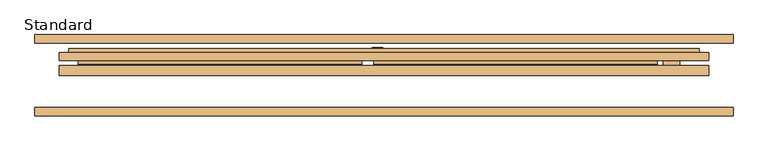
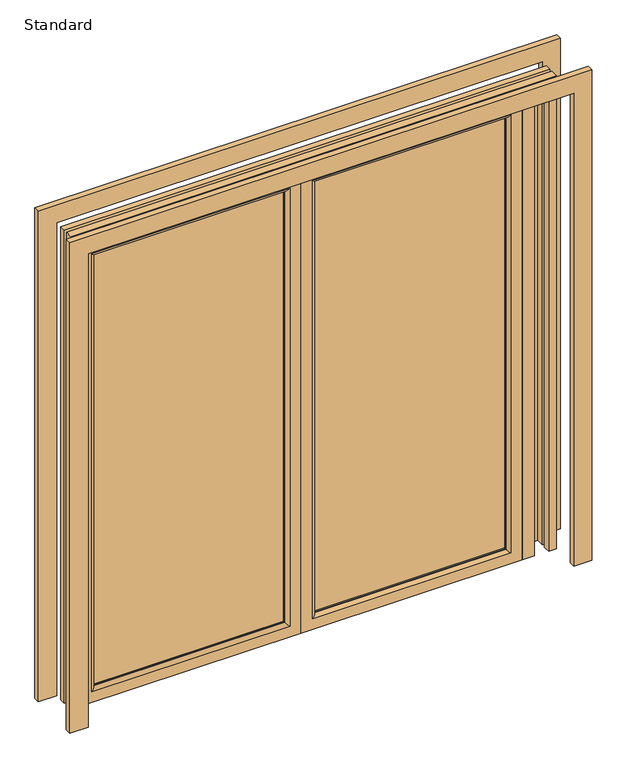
"""IFC4 building model written with IfcOpenShell, lengths in millimetres: door geometry, SMARTS_Visofold1000 : Standard."""

import ifcopenshell
import ifcopenshell.guid

model = None  # the IFC model being written
_history = None  # IfcOwnerHistory: only IFC2X3 demands one
_inside = {}  # id of a spatial element -> (the spatial element, [elements in it])
_under = {}  # id of a project, library or spatial element -> (it, [spatial elements below it])
_declared = {}  # id of a project -> (the project, [libraries it declares])
_typed = {}  # id of a type object -> (the type object, [elements of that type])
_made_of = {}  # id of a material, layer set ... -> (it, [elements and type objects made of it])


def new_model(schema):
    """Start an empty IFC model of exactly this schema.

    Asked for "IFC4X3", IfcOpenShell would pick the latest addendum, in which some entities
    have other attributes; the version numbers below select the first issue.
    IFC2X3 requires an IfcOwnerHistory on every rooted entity: one is made here for all.
    """
    global model, _history
    if schema == "IFC4X3":
        model = ifcopenshell.file(schema_version=(4, 3, 0, 0))
    else:
        model = ifcopenshell.file(schema=schema)
    _inside.clear()
    _under.clear()
    _declared.clear()
    _typed.clear()
    _made_of.clear()
    _history = None
    if model.schema == "IFC2X3":
        org = make("IfcOrganization", Name="unknown")
        user = make(
            "IfcPersonAndOrganization",
            ThePerson=make("IfcPerson", FamilyName="unknown"),
            TheOrganization=org,
        )
        app = make(
            "IfcApplication",
            ApplicationDeveloper=org,
            Version="unknown",
            ApplicationFullName="unknown",
            ApplicationIdentifier="unknown",
        )
        _history = make(
            "IfcOwnerHistory",
            OwningUser=user,
            OwningApplication=app,
            ChangeAction="ADDED",
            CreationDate=0,
        )
    return model


def make(cls, **values):
    """One entity of the class cls with the attributes given. An attribute that is None is left unset."""
    return model.create_entity(
        cls, **{name: value for name, value in values.items() if value is not None}
    )


def rooted(cls, **values):
    """An entity with a GlobalId (a new one), such as an element, a storey or a relation."""
    return make(cls, GlobalId=ifcopenshell.guid.new(), OwnerHistory=_history, **values)


def si_unit(unit_type, name, prefix=None):
    """IfcSIUnit, for example si_unit("LENGTHUNIT", "METRE", prefix="MILLI")."""
    return make("IfcSIUnit", UnitType=unit_type, Prefix=prefix, Name=name)


def assignment(units):
    """IfcUnitAssignment: the units of a project."""
    return None if units is None else make("IfcUnitAssignment", Units=units)


def point(xyz):
    """IfcCartesianPoint."""
    return None if xyz is None else make("IfcCartesianPoint", Coordinates=xyz)


def direction(xyz):
    """IfcDirection."""
    return None if xyz is None else make("IfcDirection", DirectionRatios=xyz)


def frame(location, z_axis=None, x_axis=None):
    """IfcAxis2Placement3D, a coordinate frame: its origin and axes. An axis left out is left unset."""
    return make(
        "IfcAxis2Placement3D",
        Location=point(location),
        Axis=direction(z_axis),
        RefDirection=direction(x_axis),
    )


def frame_2d(location, x_axis=None):
    """IfcAxis2Placement2D, a coordinate frame in the plane: its origin and x axis."""
    return make(
        "IfcAxis2Placement2D", Location=point(location), RefDirection=direction(x_axis)
    )


def origin():
    """The frame at (0, 0, 0) with its axes left unset."""
    return frame((0.0, 0.0, 0.0))


def origin_with_axes():
    """The frame at (0, 0, 0) with the z axis (0, 0, 1) and the x axis (1, 0, 0) written out."""
    return frame((0.0, 0.0, 0.0), z_axis=(0.0, 0.0, 1.0), x_axis=(1.0, 0.0, 0.0))


def place(relative_to, where):
    """IfcLocalPlacement: puts the frame where relative to a parent placement (None: the world)."""
    return make(
        "IfcLocalPlacement", PlacementRelTo=relative_to, RelativePlacement=where
    )


def context(
    kind, dimensions, precision=None, world=None, true_north=None, identifier=None
):
    """IfcGeometricRepresentationContext, for example the 3D "Model" context."""
    return make(
        "IfcGeometricRepresentationContext",
        ContextIdentifier=identifier,
        ContextType=kind,
        CoordinateSpaceDimension=dimensions,
        Precision=precision,
        WorldCoordinateSystem=world,
        TrueNorth=true_north,
    )


def project(units=None, contexts=None):
    """IfcProject with its units and contexts."""
    return rooted(
        "IfcProject",
        Name="project",
        RepresentationContexts=contexts,
        UnitsInContext=assignment(units),
    )


def spatial(cls, under=None, at=None, **own):
    """A site, building, storey or space (cls), placed at a placement, below another one or the project."""
    s = rooted(cls, ObjectPlacement=at, **own)
    if under is not None:
        _under.setdefault(under.id(), (under, []))[1].append(s)
    return s


def polyline(points):
    """IfcPolyline through the points."""
    return make("IfcPolyline", Points=[point(p) for p in points])


def circle_curve(where, radius):
    """IfcCircle in the frame where."""
    return make("IfcCircle", Position=where, Radius=radius)


def ellipse_curve(where, semi_axis1, semi_axis2):
    """IfcEllipse in the frame where."""
    return make(
        "IfcEllipse", Position=where, SemiAxis1=semi_axis1, SemiAxis2=semi_axis2
    )


def trimmed(basis, trim1, trim2, sense, master):
    """IfcTrimmedCurve: the piece of a basis curve between two trims."""
    return make(
        "IfcTrimmedCurve",
        BasisCurve=basis,
        Trim1=trim1,
        Trim2=trim2,
        SenseAgreement=sense,
        MasterRepresentation=master,
    )


def segment(curve, same_sense, transition):
    """IfcCompositeCurveSegment."""
    return make(
        "IfcCompositeCurveSegment",
        Transition=transition,
        SameSense=same_sense,
        ParentCurve=curve,
    )


def composite_curve(segments, self_intersect=None):
    """IfcCompositeCurve: segments joined end to end."""
    return make("IfcCompositeCurve", Segments=segments, SelfIntersect=self_intersect)


def outline(outer, holes=None, kind="AREA"):
    """IfcArbitraryClosedProfileDef: a profile drawn as a closed curve; with holes, ...WithVoids."""
    if holes is None:
        return make("IfcArbitraryClosedProfileDef", ProfileType=kind, OuterCurve=outer)
    return make(
        "IfcArbitraryProfileDefWithVoids",
        ProfileType=kind,
        OuterCurve=outer,
        InnerCurves=holes,
    )


def extrude(swept, where, along, depth):
    """IfcExtrudedAreaSolid: the profile swept, set in the frame where, extruded along a direction by depth."""
    return make(
        "IfcExtrudedAreaSolid",
        SweptArea=swept,
        Position=where,
        ExtrudedDirection=direction(along),
        Depth=depth,
    )


def faces_of(points, faces, orient=None, outer=None):
    """IfcFace entities. A face is a list of loops; a loop is a list of indices into points, from 0.

    orient and outer hold one flag for each loop. By default every Orientation is true, the
    first loop of a face is its IfcFaceOuterBound and the others are IfcFaceBound.
    """
    made = []
    for i, loops in enumerate(faces):
        bounds = []
        for j, loop in enumerate(loops):
            is_outer = j == 0 if outer is None else outer[i][j]
            bounds.append(
                make(
                    "IfcFaceOuterBound" if is_outer else "IfcFaceBound",
                    Bound=make("IfcPolyLoop", Polygon=[points[k] for k in loop]),
                    Orientation=True if orient is None else orient[i][j],
                )
            )
        made.append(make("IfcFace", Bounds=bounds))
    return made


def faceted_brep(points, faces, orient=None, outer=None, voids=None):
    """IfcFacetedBrep: a solid bounded by flat faces; with voids (closed shells), ...WithVoids."""
    shared = [point(p) for p in points]
    hull = make("IfcClosedShell", CfsFaces=faces_of(shared, faces, orient, outer))
    if voids is None:
        return make("IfcFacetedBrep", Outer=hull)
    return make(
        "IfcFacetedBrepWithVoids",
        Outer=hull,
        Voids=[
            make(cls, CfsFaces=faces_of(shared, fs, o, b)) for cls, fs, o, b in voids
        ],
    )


def shape(context_of_items, identifier, shape_type, items):
    """IfcShapeRepresentation: the items that make up one representation, for example the "Body"."""
    return make(
        "IfcShapeRepresentation",
        ContextOfItems=context_of_items,
        RepresentationIdentifier=identifier,
        RepresentationType=shape_type,
        Items=items,
    )


def source(mapping_origin, context_of_items, identifier, shape_type, items):
    """IfcRepresentationMap: a shape defined once, which mapped items show again and again."""
    return make(
        "IfcRepresentationMap",
        MappingOrigin=mapping_origin,
        MappedRepresentation=shape(context_of_items, identifier, shape_type, items),
    )


def transform(
    local_origin,
    x_axis=None,
    y_axis=None,
    z_axis=None,
    scale=None,
    scale2=None,
    scale3=None,
    uniform=True,
):
    """IfcCartesianTransformationOperator3D, or its non-uniform kind. x_axis, y_axis, z_axis: its Axis1, 2, 3."""
    if uniform:
        return make(
            "IfcCartesianTransformationOperator3D",
            Axis1=direction(x_axis),
            Axis2=direction(y_axis),
            LocalOrigin=point(local_origin),
            Scale=scale,
            Axis3=direction(z_axis),
        )
    return make(
        "IfcCartesianTransformationOperator3DnonUniform",
        Axis1=direction(x_axis),
        Axis2=direction(y_axis),
        LocalOrigin=point(local_origin),
        Scale=scale,
        Axis3=direction(z_axis),
        Scale2=scale2,
        Scale3=scale3,
    )


def mapped(mapping_source, mapping_target):
    """IfcMappedItem: shows the shape of a source again, moved by a transform."""
    return make(
        "IfcMappedItem", MappingSource=mapping_source, MappingTarget=mapping_target
    )


def made_of(thing, what):
    """Note that an element or type object is made of a material, layer set ...; save() writes the relation."""
    if what is not None:
        _made_of.setdefault(what.id(), (what, []))[1].append(thing)
    return thing


def element(
    cls,
    number,
    at=None,
    inside=None,
    cuts=None,
    type_object=None,
    material=None,
    context=None,
    identifier="Body",
    shape_type=None,
    held_by="IfcProductDefinitionShape",
    body=None,
    shapes=None,
    **own,
):
    """One element of the class cls, such as IfcWall. Its Tag is "e" and its number.

    at: its placement. inside: the storey or other place that contains it. cuts: it is an
    opening in that element (IfcRelVoidsElement). A single representation is given by context,
    identifier, shape_type and body (its items); several are given by shapes. held_by: the class
    of the entity that holds the representations. save() writes the other relations.
    """
    e = rooted(cls, Tag="e%d" % number, ObjectPlacement=at, **own)
    if body is not None:
        shapes = [shape(context, identifier, shape_type, body)]
    if shapes is not None:
        e.Representation = make(held_by, Representations=shapes)
    if inside is not None:
        _inside.setdefault(inside.id(), (inside, []))[1].append(e)
    if cuts is not None:
        rooted(
            "IfcRelVoidsElement", RelatingBuildingElement=cuts, RelatedOpeningElement=e
        )
    if type_object is not None:
        _typed.setdefault(type_object.id(), (type_object, []))[1].append(e)
    return made_of(e, material)


def aggregate(whole, parts):
    """IfcRelAggregates: a whole, such as a stair, and the parts it consists of."""
    return rooted("IfcRelAggregates", RelatingObject=whole, RelatedObjects=parts)


def save(model, path):
    """Write the relations noted so far, then the file.

    IfcRelAggregates (storeys below a building ...), IfcRelContainedInSpatialStructure (elements
    in a storey), IfcRelDefinesByType, IfcRelAssociatesMaterial and IfcRelDeclares: one each for
    every whole, place, type object, material and project.
    """
    for whole, parts in _under.values():
        aggregate(whole, parts)
    for where, things in _inside.values():
        rooted(
            "IfcRelContainedInSpatialStructure",
            RelatedElements=things,
            RelatingStructure=where,
        )
    for kind, things in _typed.values():
        rooted("IfcRelDefinesByType", RelatedObjects=things, RelatingType=kind)
    for what, things in _made_of.values():
        rooted("IfcRelAssociatesMaterial", RelatedObjects=things, RelatingMaterial=what)
    for by, libraries in _declared.values():
        rooted("IfcRelDeclares", RelatingContext=by, RelatedDefinitions=libraries)
    model.write(path)


def plane_surface(at):
    """IfcPlane: the flat surface through the origin of the frame at, square to its z axis."""
    return make("IfcPlane", Position=at)


def cylinder_surface(at, radius):
    """IfcCylindricalSurface: all points at the distance radius from the z axis of the frame at."""
    return make("IfcCylindricalSurface", Position=at, Radius=radius)


def advanced_brep(points, edges, surfaces, faces):
    """IfcAdvancedBrep: a solid bounded by faces that lie on surfaces and meet in shared edges.

    An edge is (start, end): straight between two places in points (the first is 0);
    or (start, end, curve); or (start, end, curve, False) where it runs against its curve.
    A face is (place in surfaces, loops), or (place, loops, False) where it looks against
    its surface's normal. A loop lists edges by number (the first is 1), with a minus sign
    where the edge is run from its end to its start. The first loop is the outer one.
    """
    corners = [point(p) for p in points]
    vertices = [make("IfcVertexPoint", VertexGeometry=c) for c in corners]
    made = []
    for start, end, *more in edges:
        made.append(
            make(
                "IfcEdgeCurve",
                EdgeStart=vertices[start],
                EdgeEnd=vertices[end],
                EdgeGeometry=more[0] if more else make("IfcPolyline", Points=[corners[start], corners[end]]),
                SameSense=more[1] if len(more) > 1 else True,
            )
        )
    hull = []
    for where, loops, *sense in faces:
        bounds = []
        for j, loop in enumerate(loops):
            ring = [make("IfcOrientedEdge", EdgeElement=made[abs(k) - 1], Orientation=k > 0) for k in loop]
            bounds.append(
                make(
                    "IfcFaceOuterBound" if j == 0 else "IfcFaceBound",
                    Bound=make("IfcEdgeLoop", EdgeList=ring),
                    Orientation=True,
                )
            )
        hull.append(make("IfcAdvancedFace", Bounds=bounds, FaceSurface=surfaces[where], SameSense=sense[0] if sense else True))
    return make("IfcAdvancedBrep", Outer=make("IfcClosedShell", CfsFaces=hull))


def standard_30918d1a(model_context):
    return source(origin(), model_context, "Body", "SolidModel", [
        extrude(outline(composite_curve([segment(trimmed(circle_curve(frame_2d((1228.0996413, -20.0)), 16.0), [point((1228.0996413, -4.0))], [point((1228.0996413, -36.0))], False, "CARTESIAN"), True, "CONTINUOUS"), segment(polyline([(1228.0996413, -36.0), (1040.0996413, -36.0)]), True, "CONTINUOUS"), segment(trimmed(circle_curve(frame_2d((1040.0996413, -20.0)), 16.0), [point((1040.0996413, -36.0))], [point((1040.0996413, -4.0))], False, "CARTESIAN"), True, "CONTINUOUS"), segment(polyline([(1040.0996413, -4.0), (1228.0996413, -4.0)]), True, "CONTINUOUS")], self_intersect=False)), frame((0.0, 75.0, 0.0), z_axis=(0.0, 1.0, 0.0), x_axis=(0.0, 0.0, 1.0)), (0.0, 0.0, 1.0), 10.0),
        extrude(outline(polyline([(45.0, -5.0), (45.0, 815.0), (1955.0, 815.0), (1955.0, -5.0), (45.0, -5.0)]), holes=[polyline([(1939.5, 10.5), (1939.5, 799.5), (60.5, 799.5), (60.5, 10.5), (1939.5, 10.5)])]), frame((0.0, 17.4, 0.0), z_axis=(0.0, 1.0, 0.0), x_axis=(0.0, 0.0, 1.0)), (0.0, 0.0, 1.0), 35.0),
        faceted_brep([(-50.0, 74.4, 0.0), (-50.0, 52.4, 0.0), (-50.0, 52.4, 2000.0), (-50.0, 74.4, 2000.0), (10.5, 52.4, 60.5), (10.5, 74.4, 60.5), (10.5, 74.4, 1939.5), (10.5, 52.4, 1939.5), (860.0, 52.4, 2000.0), (860.0, 74.4, 2000.0), (799.5, 74.4, 1939.5), (799.5, 52.4, 1939.5), (860.0, 52.4, 0.0), (860.0, 74.4, 0.0), (799.5, 74.4, 60.5), (799.5, 52.4, 60.5), (-32.1308519, 34.8, 17.8691481), (842.1308519, 34.8, 17.8691481), (842.1308519, 34.8, 1982.1308519), (-32.1308519, 34.8, 1982.1308519), (-5.0, 34.8, 1955.0), (815.0, 34.8, 1955.0), (815.0, 34.8, 45.0), (-5.0, 34.8, 45.0), (-32.1308519, 52.4, 17.8691481), (-32.1308519, 52.4, 1982.1308519), (-5.0, 52.4, 45.0), (-5.0, 52.4, 1955.0), (842.1308519, 52.4, 1982.1308519), (815.0, 52.4, 1955.0), (842.1308519, 52.4, 17.8691481), (815.0, 52.4, 45.0)], [[[0, 1, 2, 3]], [[4, 5, 6, 7]], [[3, 2, 8, 9]], [[7, 6, 10, 11]], [[9, 8, 12, 13]], [[11, 10, 14, 15]], [[13, 12, 1, 0]], [[3, 9, 13, 0], [5, 14, 10, 6]], [[15, 14, 5, 4]], [[16, 17, 18, 19], [20, 21, 22, 23]], [[24, 16, 19, 25]], [[23, 26, 27, 20]], [[25, 19, 18, 28]], [[20, 27, 29, 21]], [[28, 18, 17, 30]], [[21, 29, 31, 22]], [[30, 17, 16, 24]], [[1, 12, 8, 2], [25, 28, 30, 24]], [[26, 31, 29, 27], [7, 11, 15, 4]], [[22, 31, 26, 23]]]),
        advanced_brep(
        [(10.5, 13.3, 60.5), (10.5, 17.4, 60.5), (10.5, 17.4, 1939.5), (10.5, 13.3, 1939.5), (-50.0, 17.4, 0.0), (-50.0, 0.0, 0.0), (-50.0, 0.0, 2000.0), (-50.0, 17.4, 2000.0), (799.5, 17.4, 1939.5), (799.5, 13.3, 1939.5), (860.0, 0.0, 2000.0), (860.0, 17.4, 2000.0), (799.5, 17.4, 60.5), (799.5, 13.3, 60.5), (860.0, 0.0, 0.0), (860.0, 17.4, 0.0), (-2.8, 0.0, 1952.8), (812.8, 0.0, 1952.8), (812.8, 0.0, 47.2), (-2.8, 0.0, 47.2), (-32.1308519, 34.8, 17.8691481), (-32.1308519, 17.4, 17.8691481), (-32.1308519, 17.4, 1982.1308519), (-32.1308519, 34.8, 1982.1308519), (842.1308519, 17.4, 1982.1308519), (842.1308519, 34.8, 1982.1308519), (842.1308519, 17.4, 17.8691481), (842.1308519, 34.8, 17.8691481), (-5.0, 17.4, 45.0), (-5.0, 34.8, 45.0), (-5.0, 34.8, 1955.0), (-5.0, 17.4, 1955.0), (815.0, 34.8, 1955.0), (815.0, 17.4, 1955.0), (815.0, 34.8, 45.0), (815.0, 17.4, 45.0)],
        [
            (0, 1),
            (1, 2),
            (2, 3),
            (3, 0),
            (4, 5),
            (5, 6),
            (6, 7),
            (7, 4),
            (2, 8),
            (8, 9),
            (9, 3),
            (6, 10),
            (10, 11),
            (11, 7),
            (8, 12),
            (12, 13),
            (13, 9),
            (10, 14),
            (14, 15),
            (15, 11),
            (12, 1),
            (0, 13),
            (5, 14),
            (16, 17),
            (17, 18),
            (18, 19),
            (19, 16),
            (4, 15),
            (19, 0, ellipse_curve(frame((-2.8, 13.3, 47.2), z_axis=(-0.70710678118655, 0.0, 0.7071067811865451), x_axis=(-0.707106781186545, 0.0, -0.7071067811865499)), 18.8090404, 13.3)),
            (3, 16, ellipse_curve(frame((-2.8, 13.3, 1952.8), z_axis=(-0.7071067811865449, 0.0, -0.70710678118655), x_axis=(0.7071067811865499, 0.0, -0.707106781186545)), 18.8090404, 13.3)),
            (9, 17, ellipse_curve(frame((812.8, 13.3, 1952.8), z_axis=(-0.7071067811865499, 0.0, 0.7071067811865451), x_axis=(-0.7071067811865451, 0.0, -0.70710678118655)), 18.8090404, 13.3)),
            (13, 18, ellipse_curve(frame((812.8, 13.3, 47.2), z_axis=(0.7071067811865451, 0.0, 0.7071067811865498), x_axis=(-0.7071067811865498, 0.0, 0.7071067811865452)), 18.8090404, 13.3)),
            (20, 21),
            (21, 22),
            (22, 23),
            (23, 20),
            (22, 24),
            (24, 25),
            (25, 23),
            (24, 26),
            (26, 27),
            (27, 25),
            (21, 26),
            (20, 27),
            (28, 29),
            (29, 30),
            (30, 31),
            (31, 28),
            (30, 32),
            (32, 33),
            (33, 31),
            (32, 34),
            (34, 35),
            (35, 33),
            (34, 29),
            (28, 35),
        ],
        [
            plane_surface(frame((10.5, 17.4, 60.5), z_axis=(1.0, 0.0, 0.0), x_axis=(0.0, 0.0, 1.0))),
            plane_surface(frame((-50.0, 0.0, 0.0), z_axis=(-1.0, 0.0, 0.0), x_axis=(0.0, 0.0, 1.0))),
            plane_surface(frame((10.5, 17.4, 1939.5), z_axis=(0.0, 0.0, -1.0), x_axis=(1.0, 0.0, 0.0))),
            plane_surface(frame((-50.0, 0.0, 2000.0), z_axis=(0.0, 0.0, 1.0), x_axis=(1.0, 0.0, 0.0))),
            plane_surface(frame((799.5, 17.4, 1939.5), z_axis=(-1.0, 0.0, 0.0), x_axis=(0.0, 0.0, -1.0))),
            plane_surface(frame((860.0, 0.0, 2000.0), z_axis=(1.0, 0.0, 0.0), x_axis=(0.0, 0.0, -1.0))),
            plane_surface(frame((799.5, 17.4, 60.5), z_axis=(0.0, 0.0, 1.0), x_axis=(-1.0, 0.0, 0.0))),
            plane_surface(frame((812.8, 0.0, 47.2), z_axis=(0.0, -1.0, 0.0), x_axis=(-1.0, 0.0, 0.0))),
            plane_surface(frame((860.0, 0.0, 0.0), z_axis=(0.0, 0.0, -1.0), x_axis=(-1.0, 0.0, 0.0))),
            cylinder_surface(frame((-2.8, 13.3, 0.0), z_axis=(0.0, 0.0, -1.0), x_axis=(0.0, 1.0, 0.0)), 13.3),
            cylinder_surface(frame((-50.0, 13.3, 1952.8), z_axis=(-1.0, 0.0, 0.0), x_axis=(0.0, 1.0, 0.0)), 13.3),
            cylinder_surface(frame((812.8, 13.3, 2000.0), z_axis=(0.0, 0.0, 1.0), x_axis=(0.0, 1.0, 0.0)), 13.3),
            cylinder_surface(frame((860.0, 13.3, 47.2), z_axis=(1.0, 0.0, 0.0), x_axis=(0.0, 1.0, 0.0)), 13.3),
            plane_surface(frame((-32.1308519, 17.4, 17.8691481), z_axis=(-1.0, 0.0, 0.0), x_axis=(0.0, 0.0, 1.0))),
            plane_surface(frame((-32.1308519, 17.4, 1982.1308519), z_axis=(0.0, 0.0, 1.0), x_axis=(1.0, 0.0, 0.0))),
            plane_surface(frame((842.1308519, 17.4, 1982.1308519), z_axis=(1.0, 0.0, 0.0), x_axis=(0.0, 0.0, -1.0))),
            plane_surface(frame((860.0, 17.4, 0.0), z_axis=(0.0, 1.0, 0.0), x_axis=(-1.0, 0.0, 0.0))),
            plane_surface(frame((842.1308519, 17.4, 17.8691481), z_axis=(0.0, 0.0, -1.0), x_axis=(-1.0, 0.0, 0.0))),
            plane_surface(frame((-5.0, 34.8, 45.0), z_axis=(1.0, 0.0, 0.0), x_axis=(0.0, 0.0, 1.0))),
            plane_surface(frame((-5.0, 34.8, 1955.0), z_axis=(0.0, 0.0, -1.0), x_axis=(1.0, 0.0, 0.0))),
            plane_surface(frame((815.0, 34.8, 1955.0), z_axis=(-1.0, 0.0, 0.0), x_axis=(0.0, 0.0, -1.0))),
            plane_surface(frame((815.0, 34.8, 45.0), z_axis=(0.0, 0.0, 1.0), x_axis=(-1.0, 0.0, 0.0))),
            plane_surface(frame((815.0, 17.4, 45.0), z_axis=(0.0, 1.0, 0.0), x_axis=(-1.0, 0.0, 0.0))),
            plane_surface(frame((842.1308519, 34.8, 17.8691481), z_axis=(0.0, 1.0, 0.0), x_axis=(-1.0, 0.0, 0.0))),
        ],
        [
            (0, [[1, 2, 3, 4]]),
            (1, [[5, 6, 7, 8]]),
            (2, [[-3, 9, 10, 11]]),
            (3, [[-7, 12, 13, 14]]),
            (4, [[-10, 15, 16, 17]]),
            (5, [[-13, 18, 19, 20]]),
            (6, [[-16, 21, -1, 22]]),
            (7, [[23, -18, -12, -6], [24, 25, 26, 27]]),
            (8, [[-19, -23, -5, 28]]),
            (9, [[29, -4, 30, -27]]),
            (10, [[-30, -11, 31, -24]]),
            (11, [[-31, -17, 32, -25]]),
            (12, [[-32, -22, -29, -26]]),
            (13, [[33, 34, 35, 36]]),
            (14, [[-35, 37, 38, 39]]),
            (15, [[-38, 40, 41, 42]]),
            (16, [[-14, -20, -28, -8], [43, -40, -37, -34]]),
            (17, [[-41, -43, -33, 44]]),
            (18, [[45, 46, 47, 48]]),
            (19, [[-47, 49, 50, 51]]),
            (20, [[-50, 52, 53, 54]]),
            (21, [[-53, 55, -45, 56]]),
            (22, [[-51, -54, -56, -48], [-21, -15, -9, -2]]),
            (23, [[-39, -42, -44, -36], [-55, -52, -49, -46]]),
        ],
    ),
        extrude(outline(polyline([(10.5, 50.1484783), (799.5, 50.1484783), (799.5, 21.4), (10.5, 21.4), (10.5, 50.1484783)])), frame((0.0, 0.0, 60.5), z_axis=(0.0, 0.0, 1.0), x_axis=(1.0, 0.0, 0.0)), (0.0, 0.0, 1.0), 1879.0),
        extrude(outline(polyline([(45.0, -95.0), (1955.0, -95.0), (1955.0, -915.0), (45.0, -915.0), (45.0, -95.0)]), holes=[polyline([(1939.5, -110.5), (60.5, -110.5), (60.5, -899.5), (1939.5, -899.5), (1939.5, -110.5)])]), frame((0.0, 17.4, 0.0), z_axis=(0.0, 1.0, 0.0), x_axis=(0.0, 0.0, 1.0)), (0.0, 0.0, 1.0), 35.0),
        faceted_brep([(-50.0, 74.4, 0.0), (-50.0, 74.4, 2000.0), (-50.0, 52.4, 2000.0), (-50.0, 52.4, 0.0), (-110.5, 52.4, 60.5), (-110.5, 52.4, 1939.5), (-110.5, 74.4, 1939.5), (-110.5, 74.4, 60.5), (-960.0, 74.4, 0.0), (-960.0, 52.4, 0.0), (-960.0, 74.4, 2000.0), (-960.0, 52.4, 2000.0), (-899.5, 52.4, 1939.5), (-899.5, 74.4, 1939.5), (-899.5, 52.4, 60.5), (-899.5, 74.4, 60.5), (-67.8691481, 34.8, 17.8691481), (-67.8691481, 34.8, 1982.1308519), (-942.1308519, 34.8, 1982.1308519), (-942.1308519, 34.8, 17.8691481), (-95.0, 34.8, 1955.0), (-95.0, 34.8, 45.0), (-915.0, 34.8, 45.0), (-915.0, 34.8, 1955.0), (-67.8691481, 52.4, 17.8691481), (-67.8691481, 52.4, 1982.1308519), (-95.0, 52.4, 1955.0), (-95.0, 52.4, 45.0), (-942.1308519, 52.4, 1982.1308519), (-915.0, 52.4, 1955.0), (-942.1308519, 52.4, 17.8691481), (-915.0, 52.4, 45.0)], [[[0, 1, 2, 3]], [[4, 5, 6, 7]], [[8, 0, 3, 9]], [[1, 10, 11, 2]], [[5, 12, 13, 6]], [[10, 8, 9, 11]], [[12, 14, 15, 13]], [[1, 0, 8, 10], [7, 6, 13, 15]], [[14, 4, 7, 15]], [[16, 17, 18, 19], [20, 21, 22, 23]], [[24, 25, 17, 16]], [[21, 20, 26, 27]], [[25, 28, 18, 17]], [[20, 23, 29, 26]], [[28, 30, 19, 18]], [[23, 22, 31, 29]], [[30, 24, 16, 19]], [[3, 2, 11, 9], [25, 24, 30, 28]], [[27, 26, 29, 31], [5, 4, 14, 12]], [[22, 21, 27, 31]]]),
        advanced_brep(
        [(-110.5, 13.3, 60.5), (-110.5, 13.3, 1939.5), (-110.5, 17.4, 1939.5), (-110.5, 17.4, 60.5), (-50.0, 17.4, 0.0), (-50.0, 17.4, 2000.0), (-50.0, 0.0, 2000.0), (-50.0, 0.0, 0.0), (-899.5, 13.3, 1939.5), (-899.5, 17.4, 1939.5), (-960.0, 17.4, 2000.0), (-960.0, 0.0, 2000.0), (-899.5, 13.3, 60.5), (-899.5, 17.4, 60.5), (-960.0, 17.4, 0.0), (-960.0, 0.0, 0.0), (-97.2, 0.0, 1952.8), (-97.2, 0.0, 47.2), (-912.8, 0.0, 47.2), (-912.8, 0.0, 1952.8), (-67.8691481, 34.8, 17.8691481), (-67.8691481, 34.8, 1982.1308519), (-67.8691481, 17.4, 1982.1308519), (-67.8691481, 17.4, 17.8691481), (-942.1308519, 34.8, 1982.1308519), (-942.1308519, 17.4, 1982.1308519), (-942.1308519, 34.8, 17.8691481), (-942.1308519, 17.4, 17.8691481), (-95.0, 17.4, 45.0), (-95.0, 17.4, 1955.0), (-95.0, 34.8, 1955.0), (-95.0, 34.8, 45.0), (-915.0, 17.4, 1955.0), (-915.0, 34.8, 1955.0), (-915.0, 17.4, 45.0), (-915.0, 34.8, 45.0)],
        [
            (0, 1),
            (1, 2),
            (2, 3),
            (3, 0),
            (4, 5),
            (5, 6),
            (6, 7),
            (7, 4),
            (1, 8),
            (8, 9),
            (9, 2),
            (5, 10),
            (10, 11),
            (11, 6),
            (8, 12),
            (12, 13),
            (13, 9),
            (10, 14),
            (14, 15),
            (15, 11),
            (12, 0),
            (3, 13),
            (15, 7),
            (16, 17),
            (17, 18),
            (18, 19),
            (19, 16),
            (14, 4),
            (16, 1, ellipse_curve(frame((-97.2, 13.3, 1952.8), z_axis=(0.7071067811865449, 0.0, -0.70710678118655), x_axis=(-0.7071067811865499, 0.0, -0.707106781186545)), 18.8090404, 13.3)),
            (0, 17, ellipse_curve(frame((-97.2, 13.3, 47.2), z_axis=(0.70710678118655, 0.0, 0.7071067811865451), x_axis=(0.707106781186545, 0.0, -0.7071067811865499)), 18.8090404, 13.3)),
            (19, 8, ellipse_curve(frame((-912.8, 13.3, 1952.8), z_axis=(0.7071067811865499, 0.0, 0.7071067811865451), x_axis=(0.7071067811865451, 0.0, -0.70710678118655)), 18.8090404, 13.3)),
            (18, 12, ellipse_curve(frame((-912.8, 13.3, 47.2), z_axis=(-0.7071067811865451, 0.0, 0.7071067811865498), x_axis=(0.7071067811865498, 0.0, 0.7071067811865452)), 18.8090404, 13.3)),
            (20, 21),
            (21, 22),
            (22, 23),
            (23, 20),
            (21, 24),
            (24, 25),
            (25, 22),
            (24, 26),
            (26, 27),
            (27, 25),
            (27, 23),
            (26, 20),
            (28, 29),
            (29, 30),
            (30, 31),
            (31, 28),
            (29, 32),
            (32, 33),
            (33, 30),
            (32, 34),
            (34, 35),
            (35, 33),
            (34, 28),
            (31, 35),
        ],
        [
            plane_surface(frame((-110.5, 17.4, 60.5), z_axis=(-1.0, 0.0, 0.0), x_axis=(0.0, 0.0, 1.0))),
            plane_surface(frame((-50.0, 0.0, 0.0), z_axis=(1.0, 0.0, 0.0), x_axis=(0.0, 0.0, 1.0))),
            plane_surface(frame((-110.5, 17.4, 1939.5), z_axis=(0.0, 0.0, -1.0), x_axis=(-1.0, 0.0, 0.0))),
            plane_surface(frame((-50.0, 0.0, 2000.0), z_axis=(0.0, 0.0, 1.0), x_axis=(-1.0, 0.0, 0.0))),
            plane_surface(frame((-899.5, 17.4, 1939.5), z_axis=(1.0, 0.0, 0.0), x_axis=(0.0, 0.0, -1.0))),
            plane_surface(frame((-960.0, 0.0, 2000.0), z_axis=(-1.0, 0.0, 0.0), x_axis=(0.0, 0.0, -1.0))),
            plane_surface(frame((-899.5, 17.4, 60.5), z_axis=(0.0, 0.0, 1.0), x_axis=(1.0, 0.0, 0.0))),
            plane_surface(frame((-912.8, 0.0, 47.2), z_axis=(0.0, -1.0, 0.0), x_axis=(1.0, 0.0, 0.0))),
            plane_surface(frame((-960.0, 0.0, 0.0), z_axis=(0.0, 0.0, -1.0), x_axis=(1.0, 0.0, 0.0))),
            cylinder_surface(frame((-97.2, 13.3, 0.0), z_axis=(0.0, 0.0, -1.0), x_axis=(0.0, 1.0, 0.0)), 13.3),
            cylinder_surface(frame((-50.0, 13.3, 1952.8), z_axis=(1.0, 0.0, 0.0), x_axis=(0.0, 1.0, 0.0)), 13.3),
            cylinder_surface(frame((-912.8, 13.3, 2000.0), z_axis=(0.0, 0.0, 1.0), x_axis=(0.0, 1.0, 0.0)), 13.3),
            cylinder_surface(frame((-960.0, 13.3, 47.2), z_axis=(-1.0, 0.0, 0.0), x_axis=(0.0, 1.0, 0.0)), 13.3),
            plane_surface(frame((-67.8691481, 17.4, 17.8691481), z_axis=(1.0, 0.0, 0.0), x_axis=(0.0, 0.0, 1.0))),
            plane_surface(frame((-67.8691481, 17.4, 1982.1308519), z_axis=(0.0, 0.0, 1.0), x_axis=(-1.0, 0.0, 0.0))),
            plane_surface(frame((-942.1308519, 17.4, 1982.1308519), z_axis=(-1.0, 0.0, 0.0), x_axis=(0.0, 0.0, -1.0))),
            plane_surface(frame((-960.0, 17.4, 0.0), z_axis=(0.0, 1.0, 0.0), x_axis=(1.0, 0.0, 0.0))),
            plane_surface(frame((-942.1308519, 17.4, 17.8691481), z_axis=(0.0, 0.0, -1.0), x_axis=(1.0, 0.0, 0.0))),
            plane_surface(frame((-95.0, 34.8, 45.0), z_axis=(-1.0, 0.0, 0.0), x_axis=(0.0, 0.0, 1.0))),
            plane_surface(frame((-95.0, 34.8, 1955.0), z_axis=(0.0, 0.0, -1.0), x_axis=(-1.0, 0.0, 0.0))),
            plane_surface(frame((-915.0, 34.8, 1955.0), z_axis=(1.0, 0.0, 0.0), x_axis=(0.0, 0.0, -1.0))),
            plane_surface(frame((-915.0, 34.8, 45.0), z_axis=(0.0, 0.0, 1.0), x_axis=(1.0, 0.0, 0.0))),
            plane_surface(frame((-915.0, 17.4, 45.0), z_axis=(0.0, 1.0, 0.0), x_axis=(1.0, 0.0, 0.0))),
            plane_surface(frame((-942.1308519, 34.8, 17.8691481), z_axis=(0.0, 1.0, 0.0), x_axis=(1.0, 0.0, 0.0))),
        ],
        [
            (0, [[1, 2, 3, 4]]),
            (1, [[5, 6, 7, 8]]),
            (2, [[9, 10, 11, -2]]),
            (3, [[12, 13, 14, -6]]),
            (4, [[15, 16, 17, -10]]),
            (5, [[18, 19, 20, -13]]),
            (6, [[21, -4, 22, -16]]),
            (7, [[-7, -14, -20, 23], [24, 25, 26, 27]]),
            (8, [[28, -8, -23, -19]]),
            (9, [[-24, 29, -1, 30]]),
            (10, [[-27, 31, -9, -29]]),
            (11, [[-26, 32, -15, -31]]),
            (12, [[-25, -30, -21, -32]]),
            (13, [[33, 34, 35, 36]]),
            (14, [[37, 38, 39, -34]]),
            (15, [[40, 41, 42, -38]]),
            (16, [[-5, -28, -18, -12], [-35, -39, -42, 43]]),
            (17, [[44, -36, -43, -41]]),
            (18, [[45, 46, 47, 48]]),
            (19, [[49, 50, 51, -46]]),
            (20, [[52, 53, 54, -50]]),
            (21, [[55, -48, 56, -53]]),
            (22, [[-45, -55, -52, -49], [-3, -11, -17, -22]]),
            (23, [[-33, -44, -40, -37], [-47, -51, -54, -56]]),
        ],
    ),
        extrude(outline(polyline([(-110.5, 50.1484783), (-110.5, 21.4), (-899.5, 21.4), (-899.5, 50.1484783), (-110.5, 50.1484783)])), frame((0.0, 0.0, 60.5), z_axis=(0.0, 0.0, 1.0), x_axis=(1.0, 0.0, 0.0)), (0.0, 0.0, 1.0), 1879.0),
        extrude(outline(polyline([(910.0, 0.0), (860.0, 0.0), (860.0, 75.1750992), (910.0, 75.1750992), (910.0, 0.0)])), origin_with_axes(), (0.0, 0.0, 1.0), 2000.0),
        extrude(outline(polyline([(2058.6516063, -1000.0), (2058.6516063, 1000.0), (0.0, 1000.0), (0.0, 1075.0), (2133.6516063, 1075.0), (2133.6516063, -1075.0), (0.0, -1075.0), (0.0, -1000.0), (2058.6516063, -1000.0)])), frame((0.0, 100.0, 0.0), z_axis=(0.0, 1.0, 0.0), x_axis=(0.0, 0.0, 1.0)), (0.0, 0.0, 1.0), 25.0),
        extrude(outline(polyline([(2133.6516063, -1075.0), (0.0, -1075.0), (0.0, -1000.0), (2058.6516063, -1000.0), (2058.6516063, 1000.0), (0.0, 1000.0), (0.0, 1075.0), (2133.6516063, 1075.0), (2133.6516063, -1075.0)])), frame((0.0, -125.0, 0.0), z_axis=(0.0, 1.0, 0.0), x_axis=(0.0, 0.0, 1.0)), (0.0, 0.0, 1.0), 25.0),
        extrude(outline(polyline([(0.0, 968.8), (0.0, 1000.0), (2058.6516063, 1000.0), (2058.6516063, -1000.0), (0.0, -1000.0), (0.0, -968.8), (2027.4516063, -968.8), (2027.4516063, 968.8), (0.0, 968.8)])), frame((0.0, 0.0, 0.0), z_axis=(0.0, 1.0, 0.0), x_axis=(0.0, 0.0, 1.0)), (0.0, 0.0, 1.0), 29.65),
        faceted_brep([(1000.0, 44.85, 0.0), (968.8, 44.85, 0.0), (968.8, 77.4, 0.0), (948.3, 77.4, 0.0), (948.3, 81.9, 0.0), (970.6, 81.9, 0.0), (970.6, 70.0, 0.0), (1000.0, 70.0, 0.0), (1000.0, 44.85, 2058.6516063), (-1000.0, 44.85, 2058.6516063), (-1000.0, 44.85, 0.0), (-968.8, 44.85, 0.0), (-968.8, 44.85, 2027.4516063), (968.8, 44.85, 2027.4516063), (968.8, 77.4, 2027.4516063), (-968.8, 77.4, 2027.4516063), (-968.8, 77.4, 0.0), (-948.3, 77.4, 0.0), (-948.3, 77.4, 2006.9516063), (948.3, 77.4, 2006.9516063), (948.3, 81.9, 2006.9516063), (-948.3, 81.9, 2006.9516063), (-948.3, 81.9, 0.0), (-970.6, 81.9, 0.0), (-970.6, 81.9, 2029.2516063), (970.6, 81.9, 2029.2516063), (970.6, 70.0, 2029.2516063), (-970.6, 70.0, 2029.2516063), (-970.6, 70.0, 0.0), (-1000.0, 70.0, 0.0), (-1000.0, 70.0, 2058.6516063), (1000.0, 70.0, 2058.6516063)], [[[0, 1, 2, 3, 4, 5, 6, 7]], [[1, 0, 8, 9, 10, 11, 12, 13]], [[2, 1, 13, 14]], [[3, 2, 14, 15, 16, 17, 18, 19]], [[4, 3, 19, 20]], [[5, 4, 20, 21, 22, 23, 24, 25]], [[6, 5, 25, 26]], [[7, 6, 26, 27, 28, 29, 30, 31]], [[0, 7, 31, 8]], [[10, 29, 28, 23, 22, 17, 16, 11]], [[9, 30, 29, 10]], [[27, 24, 23, 28]], [[21, 18, 17, 22]], [[15, 12, 11, 16]], [[8, 31, 30, 9]], [[14, 13, 12, 15]], [[26, 25, 24, 27]], [[20, 19, 18, 21]]]),
    ])


if __name__ == "__main__":
    model = new_model("IFC4")
    model_context = context("Model", 3, world=origin())
    ifc_project = project(units=[si_unit("LENGTHUNIT", "METRE", prefix="MILLI")], contexts=[model_context])
    site = spatial("IfcSite", under=ifc_project)
    building = spatial("IfcBuilding", under=site)
    placement = place(None, origin())
    standard_shape = standard_30918d1a(model_context)
    element("IfcDoor", 1, ObjectType="SMARTS_Visofold1000 : Standard", at=placement, inside=building, context=model_context, shape_type="MappedRepresentation", body=[
        mapped(standard_shape, transform((0.0, 0.0, 0.0), x_axis=(1.0, 0.0, 0.0), y_axis=(0.0, 1.0, 0.0), z_axis=(0.0, 0.0, 1.0))),
    ])
    save(model, "model.ifc")
